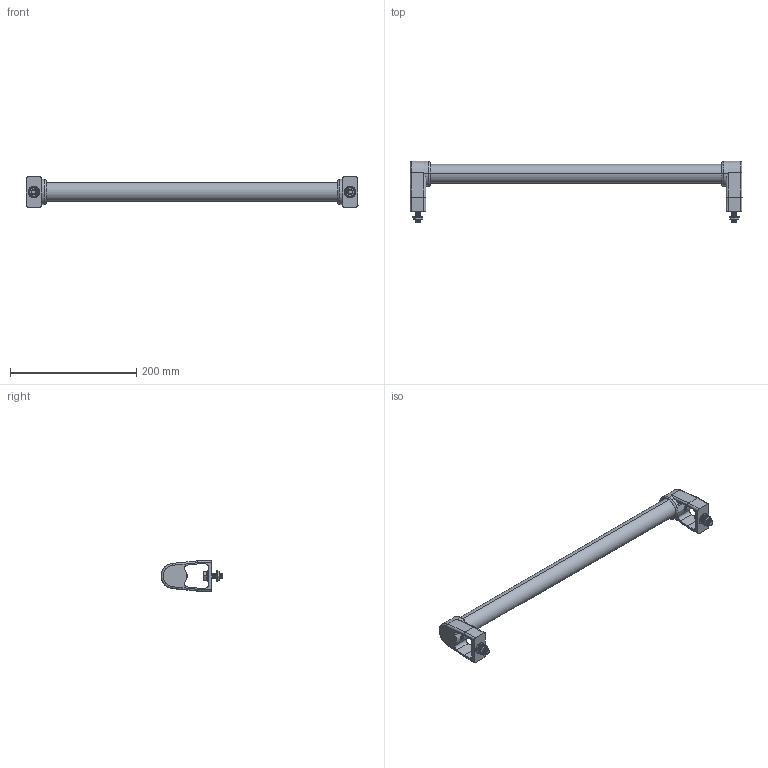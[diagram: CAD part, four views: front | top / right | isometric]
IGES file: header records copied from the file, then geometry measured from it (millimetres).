
Start section: SolidWorks IGES file using analytic representation for surfaces
Global section: file name: C:\Users\IanO\Desktop\Temp File\CADMASTER UPLOADING\78800_v2\78800_v2_20171221_IGES\78800.W0510.igs; native system: SolidWorks 2017; preprocessor: SolidWorks 2017; author: IanO; date: 180428.100920; units: millimetre
Bounding box: 525 x 97.4 x 48 mm (x, y, z)
Surface area: 132088.2 mm2 (no closed solid volume)
Topology: 0 solids, 0 shells, 486 faces, 5524 edges, 5520 vertices
Faces by surface type: revolution 372, bspline 114
